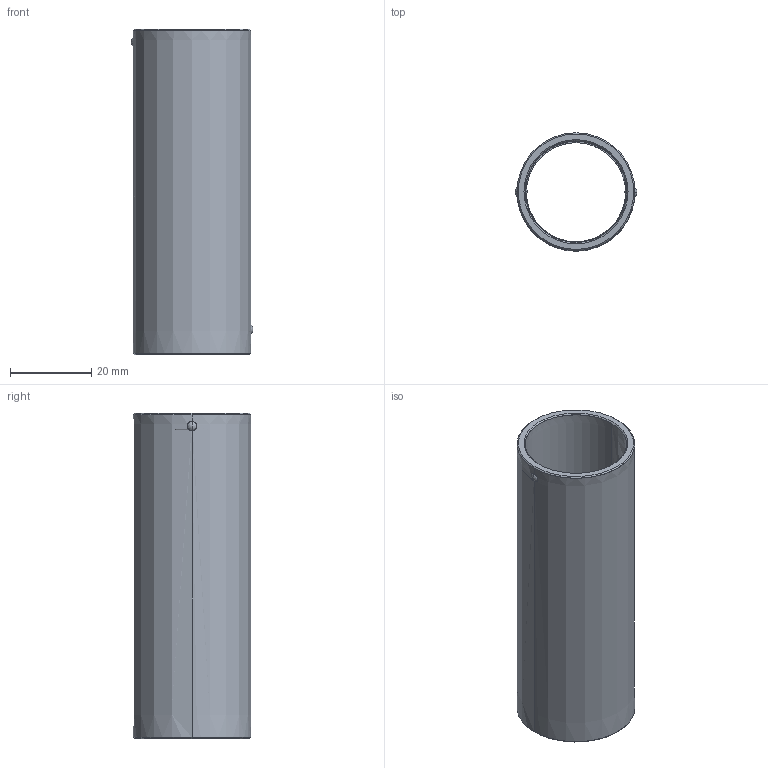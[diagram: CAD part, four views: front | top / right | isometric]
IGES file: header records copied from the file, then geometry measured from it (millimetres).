
Start section: START RECORD GO HERE.
Global section: file name: 730-24x80.igs; native system: DASSAULT SYSTEMES CATIA V5 R20 - www.3ds.com; preprocessor: CATIA Version 5 Release 20 ; author: Utente; organization: NB04-ASUS; date: 20210107.171441; units: millimetre
Bounding box: 30 x 29 x 80 mm (x, y, z)
Surface area: 14104.5 mm2 (no closed solid volume)
Topology: 0 solids, 0 shells, 44 faces, 240 edges, 240 vertices
Faces by surface type: revolution 36, plane 8
